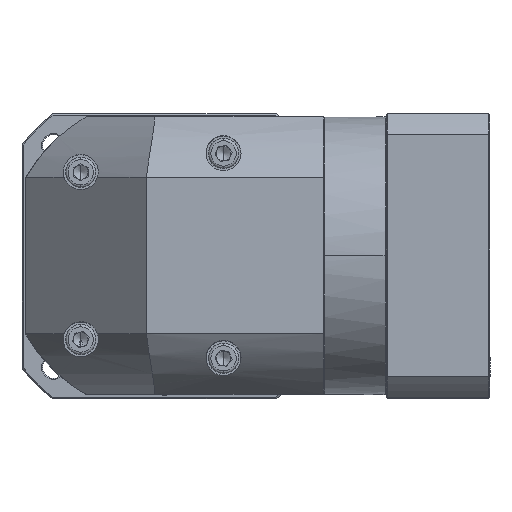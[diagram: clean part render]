
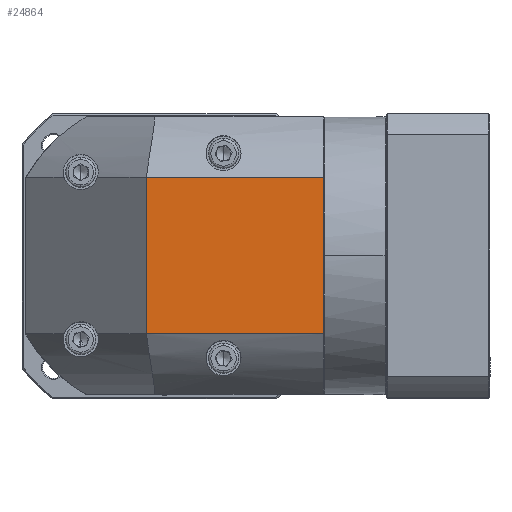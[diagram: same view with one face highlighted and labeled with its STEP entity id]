
A CAD part, top view. The second image highlights one B-rep face of the part: STEP entity #24864.
In plain terms, the highlighted planar face has unit normal (0, 0, 1).
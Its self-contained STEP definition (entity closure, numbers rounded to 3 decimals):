
#2592 = LINE ( 'NONE', #22923, #90076 ) ;
#3080 = CARTESIAN_POINT ( 'NONE',  ( -25.041, 40.395, 73.941 ) ) ;
#5075 = CARTESIAN_POINT ( 'NONE',  ( 98.359, 105.194, 73.941 ) ) ;
#5090 = LINE ( 'NONE', #3080, #131294 ) ;
#7952 = PLANE ( 'NONE',  #103225 ) ;
#17051 = ORIENTED_EDGE ( 'NONE', *, *, #39512, .F. ) ;
#18416 = DIRECTION ( 'NONE',  ( 0., -1., 0. ) ) ;
#22923 = CARTESIAN_POINT ( 'NONE',  ( 98.359, 130.295, 73.941 ) ) ;
#24864 = ADVANCED_FACE ( 'NONE', ( #45597 ), #7952, .F. ) ;
#26962 = CARTESIAN_POINT ( 'NONE',  ( 24.959, 130.295, 73.941 ) ) ;
#39512 = EDGE_CURVE ( 'NONE', #57015, #113701, #95197, .T. ) ;
#40115 = VECTOR ( 'NONE', #107620, 1000. ) ;
#43296 = VECTOR ( 'NONE', #122454, 1000. ) ;
#44523 = ORIENTED_EDGE ( 'NONE', *, *, #89083, .F. ) ;
#45597 = FACE_OUTER_BOUND ( 'NONE', #79510, .T. ) ;
#57015 = VERTEX_POINT ( 'NONE', #65623 ) ;
#60005 = CARTESIAN_POINT ( 'NONE',  ( 98.359, 40.395, 73.941 ) ) ;
#61916 = CARTESIAN_POINT ( 'NONE',  ( 24.959, 105.194, 73.941 ) ) ;
#63924 = VERTEX_POINT ( 'NONE', #60005 ) ;
#65623 = CARTESIAN_POINT ( 'NONE',  ( 24.959, 40.395, 73.941 ) ) ;
#75187 = ORIENTED_EDGE ( 'NONE', *, *, #130726, .F. ) ;
#79510 = EDGE_LOOP ( 'NONE', ( #131166, #17051, #44523, #75187 ) ) ;
#85148 = EDGE_CURVE ( 'NONE', #113701, #123870, #116082, .T. ) ;
#89083 = EDGE_CURVE ( 'NONE', #63924, #57015, #5090, .T. ) ;
#90076 = VECTOR ( 'NONE', #103970, 1000. ) ;
#95197 = LINE ( 'NONE', #26962, #40115 ) ;
#103225 = AXIS2_PLACEMENT_3D ( 'NONE', #110282, #131868, #18416 ) ;
#103970 = DIRECTION ( 'NONE',  ( 0., -1., 0. ) ) ;
#107620 = DIRECTION ( 'NONE',  ( 0., 1., 0. ) ) ;
#107655 = DIRECTION ( 'NONE',  ( -1., 0., 0. ) ) ;
#110282 = CARTESIAN_POINT ( 'NONE',  ( 32.459, 72.795, 73.941 ) ) ;
#113701 = VERTEX_POINT ( 'NONE', #61916 ) ;
#116082 = LINE ( 'NONE', #122001, #43296 ) ;
#122001 = CARTESIAN_POINT ( 'NONE',  ( -25.041, 105.194, 73.941 ) ) ;
#122454 = DIRECTION ( 'NONE',  ( 1., 0., 0. ) ) ;
#123870 = VERTEX_POINT ( 'NONE', #5075 ) ;
#130726 = EDGE_CURVE ( 'NONE', #123870, #63924, #2592, .T. ) ;
#131166 = ORIENTED_EDGE ( 'NONE', *, *, #85148, .F. ) ;
#131294 = VECTOR ( 'NONE', #107655, 1000. ) ;
#131868 = DIRECTION ( 'NONE',  ( 0., 0., -1. ) ) ;
